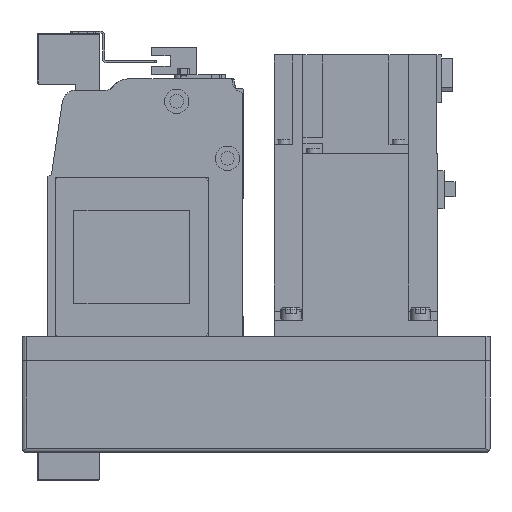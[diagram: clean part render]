
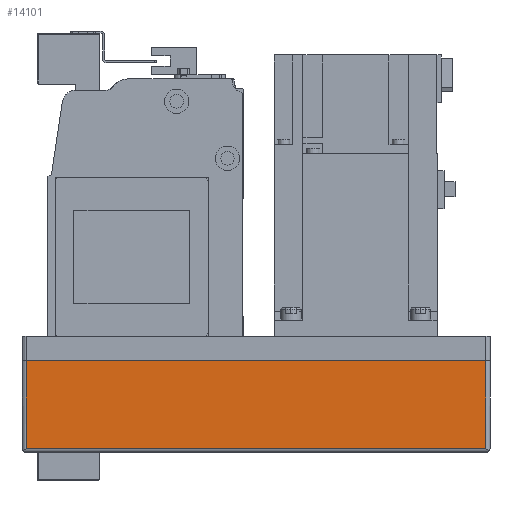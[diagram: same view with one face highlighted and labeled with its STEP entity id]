
A CAD part, left-side view. The second image highlights one B-rep face of the part: STEP entity #14101.
In plain terms, the highlighted planar face has unit normal (-1, 0, 0) as drawn and (0, 1, 0) by its records, which use the part's own axes.
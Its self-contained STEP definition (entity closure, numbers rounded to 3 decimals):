
#2542=ORIENTED_EDGE('',*,*,#5846,.F.);
#2543=ORIENTED_EDGE('',*,*,#5786,.T.);
#2544=ORIENTED_EDGE('',*,*,#5847,.F.);
#2545=ORIENTED_EDGE('',*,*,#5781,.F.);
#5781=EDGE_CURVE('',#7582,#7583,#9058,.T.);
#5786=EDGE_CURVE('',#7588,#7587,#9060,.T.);
#5846=EDGE_CURVE('',#7588,#7582,#9103,.T.);
#5847=EDGE_CURVE('',#7583,#7587,#9104,.T.);
#7582=VERTEX_POINT('',#22102);
#7583=VERTEX_POINT('',#22104);
#7587=VERTEX_POINT('',#22113);
#7588=VERTEX_POINT('',#22115);
#9058=LINE('',#22103,#10371);
#9060=LINE('',#22114,#10373);
#9103=LINE('',#22237,#10416);
#9104=LINE('',#22238,#10417);
#10371=VECTOR('',#17643,1000.);
#10373=VECTOR('',#17653,1000.);
#10416=VECTOR('',#17774,1000.);
#10417=VECTOR('',#17775,1000.);
#11524=EDGE_LOOP('',(#2542,#2543,#2544,#2545));
#12599=FACE_BOUND('',#11524,.T.);
#13506=PLANE('',#15158);
#14101=ADVANCED_FACE('',(#12599),#13506,.T.);
#15158=AXIS2_PLACEMENT_3D('',#22236,#17772,#17773);
#17643=DIRECTION('',(0.,0.,1.));
#17653=DIRECTION('',(0.,0.,1.));
#17772=DIRECTION('',(0.,1.,0.));
#17773=DIRECTION('',(0.,0.,1.));
#17774=DIRECTION('',(1.,0.,0.));
#17775=DIRECTION('',(-1.,0.,0.));
#22102=CARTESIAN_POINT('',(-2.,54.,-55.));
#22103=CARTESIAN_POINT('',(-2.,54.,-57.));
#22104=CARTESIAN_POINT('',(-2.,54.,-12.));
#22113=CARTESIAN_POINT('',(-228.,54.,-12.));
#22114=CARTESIAN_POINT('',(-228.,54.,-57.));
#22115=CARTESIAN_POINT('',(-228.,54.,-55.));
#22236=CARTESIAN_POINT('',(-2.,54.,-57.));
#22237=CARTESIAN_POINT('',(-230.,54.,-55.));
#22238=CARTESIAN_POINT('',(-2.,54.,-12.));
